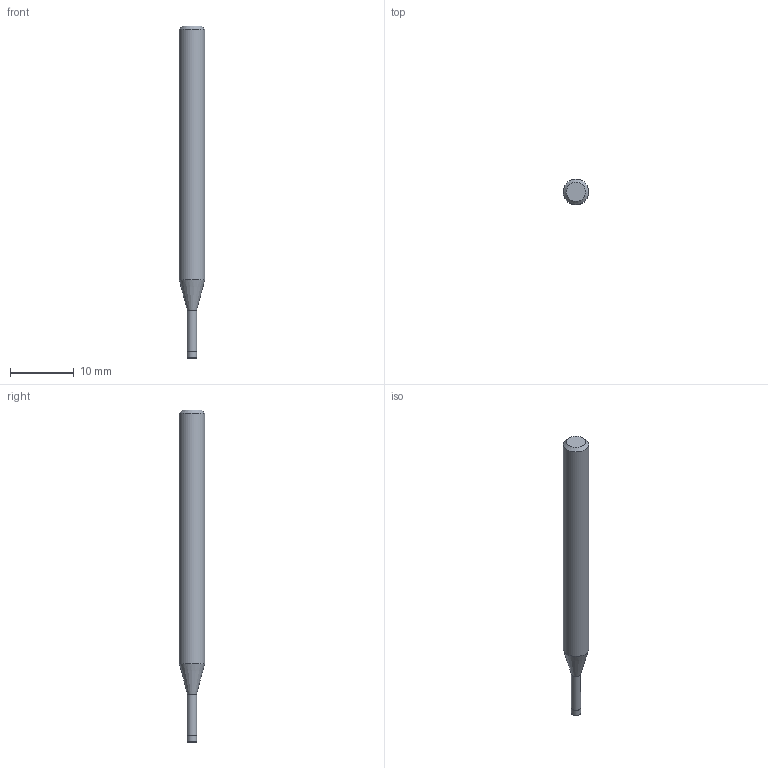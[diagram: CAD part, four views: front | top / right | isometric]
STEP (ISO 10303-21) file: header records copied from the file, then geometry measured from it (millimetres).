
FILE_DESCRIPTION((''),'2;1');
FILE_NAME('C:\Users\nsx150\AppData\Local\Temp\Mastercam 2021\LJSIDMOTM8\TEMP.step','2021-08-03T14:05:21',(''),(''),'STEP Write','Mastercam 2021 ... CNC Software, Inc.','');
FILE_SCHEMA(('AUTOMOTIVE_DESIGN'));
Length unit declared in the file: millimetre
Products named in the file (1): None
Bounding box: 4 x 4 x 52 mm (x, y, z)
Volume: 540.2 mm3; surface area: 589.6 mm2
Topology: 2 solids, 2 shells, 10 faces, 14 edges, 8 vertices
Faces by surface type: plane 4, cylinder 3, cone 2, torus 1
Full cylindrical faces by diameter (mm): 1.45 x1, 1.5 x1, 4 x1
Entity records: 232 total; most frequent: DIRECTION 40, CARTESIAN_POINT 28, AXIS2_PLACEMENT_3D 20, ORIENTED_EDGE 16, EDGE_LOOP 16, STYLED_ITEM 13, ADVANCED_FACE 10, FACE_BOUND 10
